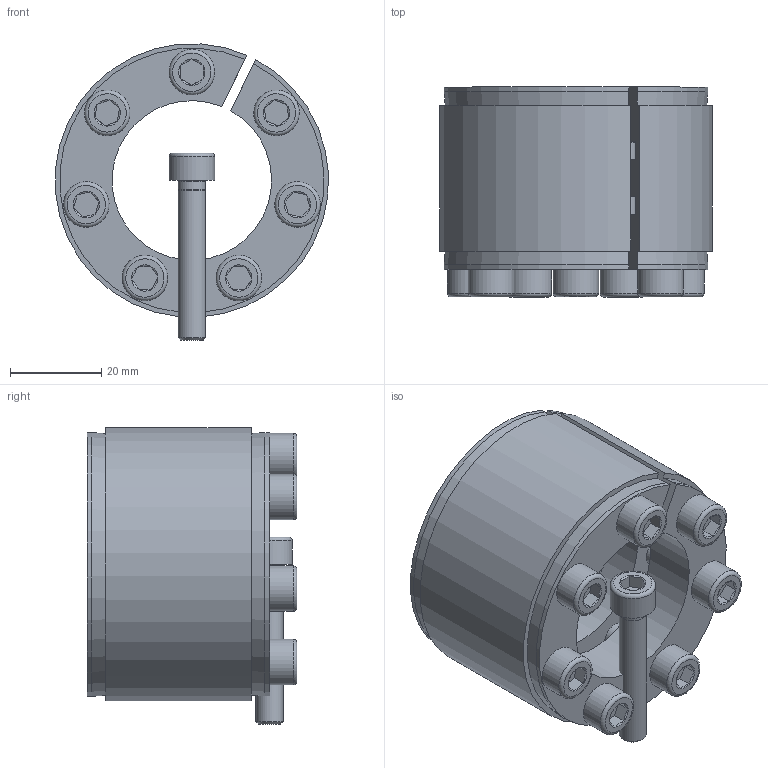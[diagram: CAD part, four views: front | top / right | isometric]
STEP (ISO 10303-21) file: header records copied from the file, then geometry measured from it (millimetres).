
FILE_DESCRIPTION( ( 'Unknown' ), '1' );
FILE_NAME( 'C:/Dokumente und Einstellungen/Sven/Desktop/homepage/cad - homepage/KBS11/KBS 11 - 35 x 60.stp', 'Unknown', ( 'Unknown' ), ( 'Unknown' ), 'XStep 1.0', 'Unknown', ' ' );
FILE_SCHEMA( ( 'automotive_design' ) );
Length unit declared in the file: millimetre
Products named in the file (3): Assem1; KBS 11 - 35 x 60; ISO EN DIN 4762 M6x35
Bounding box: 59.85 x 46 x 64.93 mm (x, y, z)
Volume: 118872.7 mm3; surface area: 59857.8 mm2
Topology: 10 solids, 10 shells, 282 faces, 606 edges, 376 vertices
Faces by surface type: plane 116, cylinder 86, cone 64, torus 16
Full cylindrical faces by diameter (mm): 5 x8, 6 x58, 10 x8
Entity records: 2214 total; most frequent: CARTESIAN_POINT 377, DIRECTION 344, ORIENTED_EDGE 262, AXIS2_PLACEMENT_3D 152, EDGE_LOOP 140, EDGE_CURVE 131, VERTEX_POINT 101, FACE_OUTER_BOUND 93
